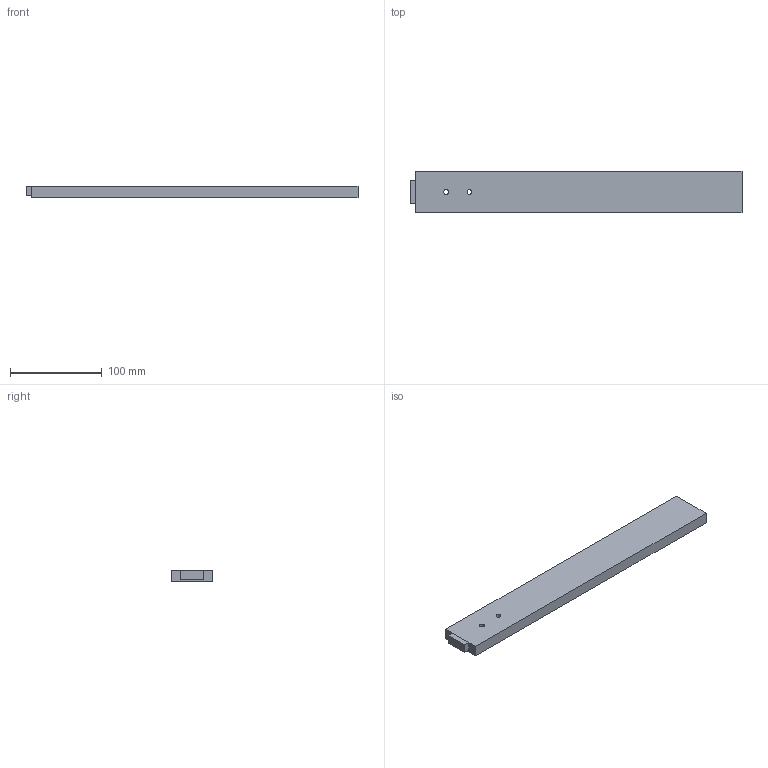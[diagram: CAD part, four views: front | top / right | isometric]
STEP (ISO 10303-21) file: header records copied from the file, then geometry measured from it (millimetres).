
FILE_DESCRIPTION(('FreeCAD Model'),'2;1');
FILE_NAME('/home/jwright/Documents/Mach_30/Shepard_v1.0_CAD/STEP_Files/Shepard_v1.0_Drawer_Slide_RS01.step','2012-10-22T11:35:42',('FreeCAD'),( 'FreeCAD'),'Open CASCADE STEP processor 6.5','FreeCAD','Unknown');
FILE_SCHEMA(('AUTOMOTIVE_DESIGN_CC2 { 1 2 10303 214 -1 1 5 4 }'));
Length unit declared in the file: millimetre
Products named in the file (1): Cut
Bounding box: 361.95 x 45.72 x 12.7 mm (x, y, z)
Volume: 207600.9 mm3; surface area: 43485.5 mm2
Topology: 1 solids, 1 shells, 13 faces, 33 edges, 22 vertices
Faces by surface type: plane 11, cylinder 2
Full cylindrical faces by diameter (mm): 5.08 x2
Entity records: 851 total; most frequent: CARTESIAN_POINT 135, DIRECTION 133, LINE 87, VECTOR 87, ORIENTED_EDGE 66, PCURVE 66, DEFINITIONAL_REPRESENTATION 66, EDGE_CURVE 33
